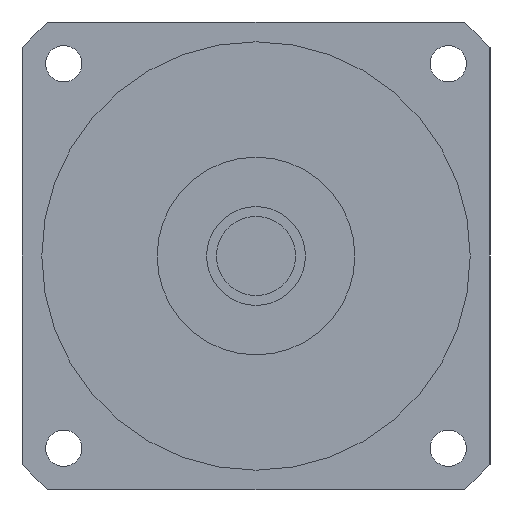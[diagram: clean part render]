
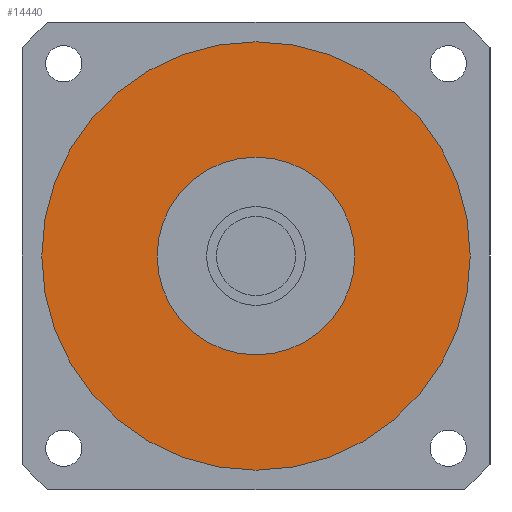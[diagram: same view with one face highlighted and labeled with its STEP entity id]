
A CAD part, left-side view. The second image highlights one B-rep face of the part: STEP entity #14440.
In plain terms, the highlighted planar face has unit normal (-1, 0, 0) as drawn and (0, 0, -1) by its records, which use the part's own axes.
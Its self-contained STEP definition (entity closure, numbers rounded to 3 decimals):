
#9350=CARTESIAN_POINT('',(30.,0.,-61.1));
#9360=VERTEX_POINT('',#9350);
#9390=CARTESIAN_POINT('',(0.,0.,
-61.1));
#9400=DIRECTION('',(0.,0.,1.));
#9410=DIRECTION('',(0.,1.,0.));
#9420=AXIS2_PLACEMENT_3D('',#9390,#9400,#9410);
#9430=CIRCLE('',#9420,30.);
#9440=CARTESIAN_POINT('',(0.,30.,-61.1));
#9450=VERTEX_POINT('',#9440);
#9460=EDGE_CURVE('',#9360,#9450,#9430,.T.);
#9480=CARTESIAN_POINT('',(-30.,0.,-61.1));
#9490=VERTEX_POINT('',#9480);
#9500=EDGE_CURVE('',#9450,#9490,#9430,.T.);
#13990=CARTESIAN_POINT('',(65.,0.,-61.1));
#14000=VERTEX_POINT('',#13990);
#14090=CARTESIAN_POINT('',(-65.,0.,-61.1));
#14100=VERTEX_POINT('',#14090);
#14130=CARTESIAN_POINT('',(0.,0.,
-61.1));
#14140=DIRECTION('',(0.,0.,1.));
#14150=DIRECTION('',(0.,1.,0.));
#14160=AXIS2_PLACEMENT_3D('',#14130,#14140,#14150);
#14170=CIRCLE('',#14160,65.);
#14180=CARTESIAN_POINT('',(0.,65.,-61.1));
#14190=VERTEX_POINT('',#14180);
#14200=EDGE_CURVE('',#14190,#14100,#14170,.T.);
#14220=EDGE_CURVE('',#14000,#14190,#14170,.T.);
#14270=CARTESIAN_POINT('',(0.,0.,
-61.1));
#14280=DIRECTION('',(0.,0.,1.));
#14290=DIRECTION('',(-1.,0.,0.));
#14300=AXIS2_PLACEMENT_3D('',#14270,#14280,#14290);
#14310=PLANE('',#14300);
#14320=ORIENTED_EDGE('',*,*,#14200,.F.);
#14330=EDGE_CURVE('',#14100,#14000,#14170,.T.);
#14340=ORIENTED_EDGE('',*,*,#14330,.F.);
#14350=ORIENTED_EDGE('',*,*,#14220,.F.);
#14360=EDGE_LOOP('',(#14350,#14340,#14320));
#14370=FACE_OUTER_BOUND('',#14360,.T.);
#14380=EDGE_CURVE('',#9490,#9360,#9430,.T.);
#14390=ORIENTED_EDGE('',*,*,#14380,.T.);
#14400=ORIENTED_EDGE('',*,*,#9500,.T.);
#14410=ORIENTED_EDGE('',*,*,#9460,.T.);
#14420=EDGE_LOOP('',(#14410,#14400,#14390));
#14430=FACE_BOUND('',#14420,.T.);
#14440=ADVANCED_FACE('',(#14370,#14430),#14310,.F.);
